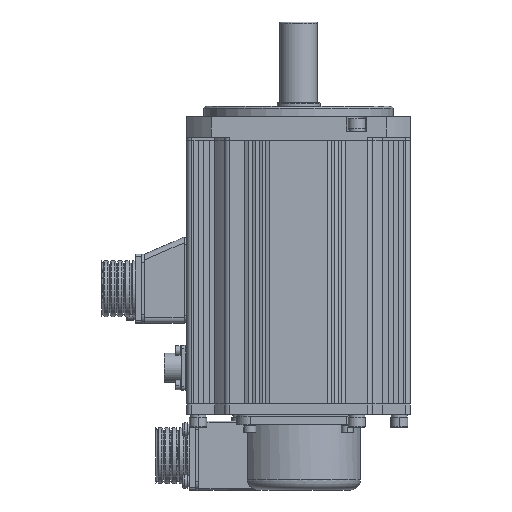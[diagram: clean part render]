
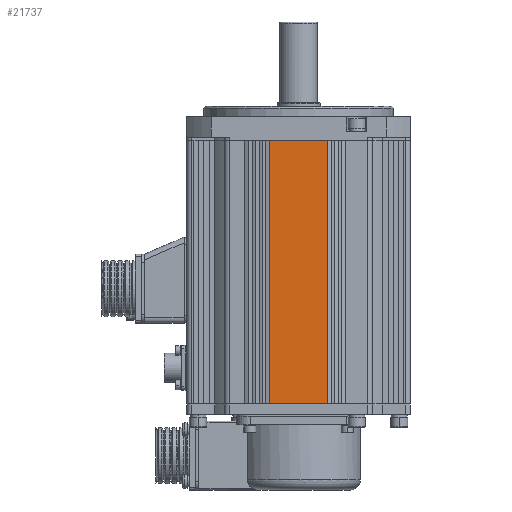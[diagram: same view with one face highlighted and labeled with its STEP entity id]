
A CAD part, front view. The second image highlights one B-rep face of the part: STEP entity #21737.
In plain terms, the highlighted planar face has unit normal (0, -1, 0) as drawn and (0, 1, 0) by its records, which use the part's own axes.
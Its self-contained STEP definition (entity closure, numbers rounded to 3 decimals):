
#14816=DIRECTION('',(0.,0.,-1.));
#14817=VECTOR('',#14816,153.);
#14818=CARTESIAN_POINT('',(-17.,65.,153.));
#14819=LINE('',#14818,#14817);
#14820=DIRECTION('',(1.,0.,0.));
#14821=VECTOR('',#14820,34.);
#14822=CARTESIAN_POINT('',(-17.,65.,0.));
#14823=LINE('',#14822,#14821);
#14828=DIRECTION('',(0.,0.,-1.));
#14829=VECTOR('',#14828,153.);
#14830=CARTESIAN_POINT('',(17.,65.,153.));
#14831=LINE('',#14830,#14829);
#15580=DIRECTION('',(1.,0.,0.));
#15581=VECTOR('',#15580,34.);
#15582=CARTESIAN_POINT('',(-17.,65.,153.));
#15583=LINE('',#15582,#15581);
#16897=CARTESIAN_POINT('',(17.,65.,0.));
#16898=VERTEX_POINT('',#16897);
#16899=CARTESIAN_POINT('',(-17.,65.,0.));
#16900=VERTEX_POINT('',#16899);
#17758=CARTESIAN_POINT('',(-17.,65.,153.));
#17759=VERTEX_POINT('',#17758);
#17760=CARTESIAN_POINT('',(17.,65.,153.));
#17761=VERTEX_POINT('',#17760);
#21724=CARTESIAN_POINT('',(65.,65.,0.));
#21725=DIRECTION('',(0.,1.,0.));
#21726=DIRECTION('',(-1.,0.,0.));
#21727=AXIS2_PLACEMENT_3D('',#21724,#21725,#21726);
#21728=PLANE('',#21727);
#21729=ORIENTED_EDGE('',*,*,#21709,.T.);
#21730=ORIENTED_EDGE('',*,*,#17959,.T.);
#21732=ORIENTED_EDGE('',*,*,#21731,.F.);
#21734=ORIENTED_EDGE('',*,*,#21733,.F.);
#21735=EDGE_LOOP('',(#21729,#21730,#21732,#21734));
#21736=FACE_OUTER_BOUND('',#21735,.F.);
#21737=ADVANCED_FACE('',(#21736),#21728,.T.);
#17959=EDGE_CURVE('',#16900,#16898,#14823,.T.);
#21709=EDGE_CURVE('',#17759,#16900,#14819,.T.);
#21731=EDGE_CURVE('',#17761,#16898,#14831,.T.);
#21733=EDGE_CURVE('',#17759,#17761,#15583,.T.);
